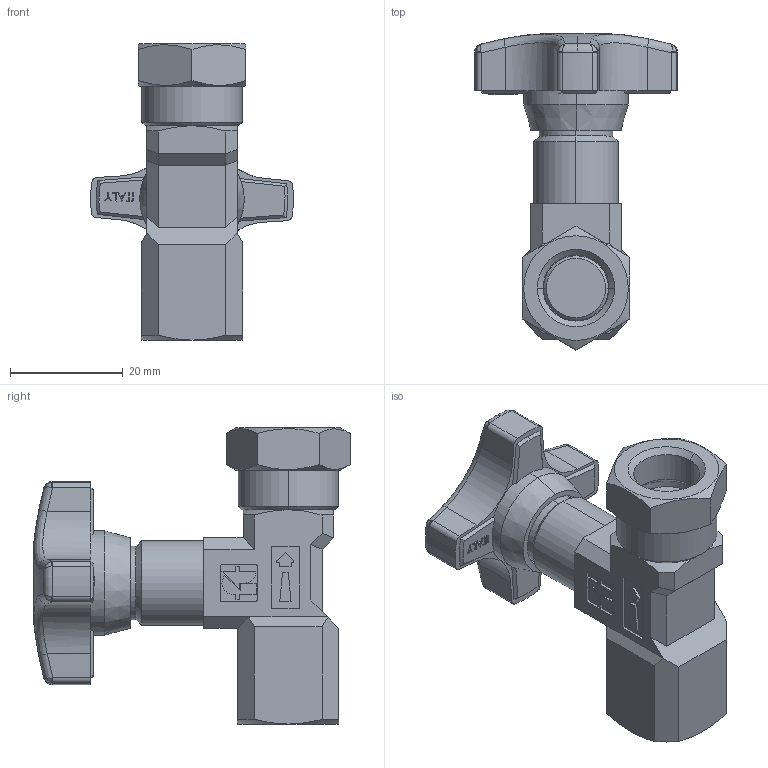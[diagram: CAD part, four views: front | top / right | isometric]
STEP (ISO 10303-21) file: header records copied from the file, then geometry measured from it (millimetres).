
FILE_DESCRIPTION (( 'STEP AP203' ), '1' );
FILE_NAME ('FT290-14FF.STEP', '2006-12-29T14:14:26', ( ' ' ), ( '' ), 'SwSTEP 2.0', 'SolidWorks 2006104', '' );
FILE_SCHEMA (( 'CONFIG_CONTROL_DESIGN' ));
Length unit declared in the file: millimetre
Products named in the file (5): FT290-14FF; ViteFT290-14; VolantinoFT290-14; DadoFT290-14; CorpoFT290-14FF
Assembly tree (4 placements, depth 2):
  FT290-14FF
    ViteFT290-14
    VolantinoFT290-14
    CorpoFT290-14FF
    DadoFT290-14
Bounding box: 35.98 x 56.05 x 52.5 mm (x, y, z)
Volume: 21777.2 mm3; surface area: 9909.2 mm2
Topology: 4 solids, 4 shells, 493 faces, 1257 edges, 802 vertices
Faces by surface type: plane 299, cylinder 80, bspline 54, cone 45, torus 13, sphere 2
Entity records: 26649 total; most frequent: CARTESIAN_POINT 14544, ORIENTED_EDGE 2494, DIRECTION 2231, EDGE_CURVE 1247, LINE 807, VECTOR 807, VERTEX_POINT 802, AXIS2_PLACEMENT_3D 712
